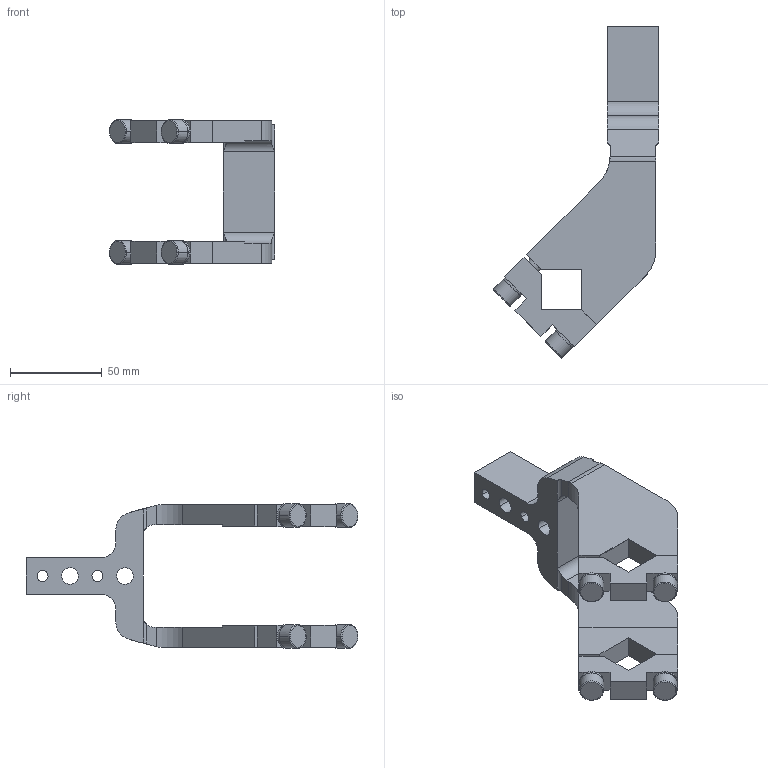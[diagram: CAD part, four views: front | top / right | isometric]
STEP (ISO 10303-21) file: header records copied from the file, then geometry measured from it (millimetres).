
FILE_DESCRIPTION(('CATIA V5 STEP Exchange'),'2;1');
FILE_NAME('E:\clampact\CLAMPACT\clampact\catalog\Clampact Arm\Arm 3D\Clampact Arm\arm_K63_25_A80_Clampact.stp','2022-12-06T08:45:44+00:00',('none'),('none'),'CATIA Version 5 Release 19 SP 6 (IN-10)','CATIA V5 STEP AP203','none');
FILE_SCHEMA(('CONFIG_CONTROL_DESIGN'));
Length unit declared in the file: millimetre
Products named in the file (1): K63_25_A80_Clampact_柯莱普
Bounding box: 90.22 x 181.22 x 79 mm (x, y, z)
Volume: 159503.1 mm3; surface area: 44175.6 mm2
Topology: 1 solids, 5 shells, 180 faces, 460 edges, 290 vertices
Faces by surface type: plane 92, cylinder 56, cone 20, torus 12
Entity records: 5206 total; most frequent: CARTESIAN_POINT 1153, ORIENTED_EDGE 904, DIRECTION 659, EDGE_CURVE 452, VERTEX_POINT 290, VECTOR 274, LINE 274, AXIS2_PLACEMENT_3D 262
